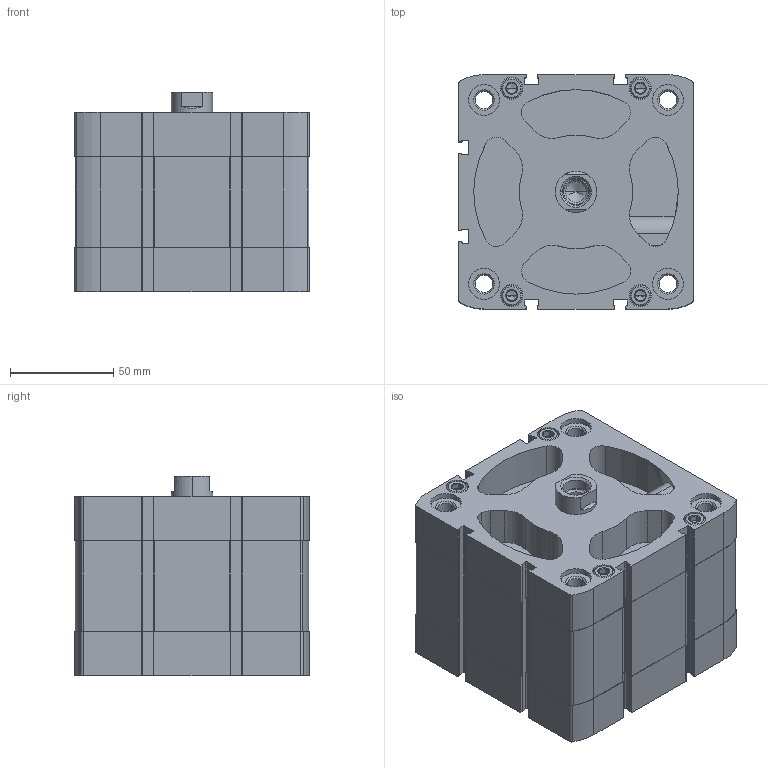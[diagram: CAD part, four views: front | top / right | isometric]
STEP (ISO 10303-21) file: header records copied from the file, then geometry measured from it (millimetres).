
FILE_DESCRIPTION (( 'STEP AP203' ), '1' );
FILE_NAME ('CCN100-20F.STEP', '2020-06-05T18:12:50', ( '' ), ( '' ), 'SwSTEP 2.0', 'SolidWorks 2019', '' );
FILE_SCHEMA (( 'CONFIG_CONTROL_DESIGN' ));
Length unit declared in the file: millimetre
Products named in the file (1): CCN100-20F
Bounding box: 113.5 x 113.5 x 96.8 mm (x, y, z)
Volume: 776148.6 mm3; surface area: 161343.3 mm2
Topology: 2 solids, 2 shells, 628 faces, 1631 edges, 1043 vertices
Faces by surface type: plane 284, cylinder 270, cone 74
Entity records: 20342 total; most frequent: CARTESIAN_POINT 4507, DIRECTION 3451, ORIENTED_EDGE 3226, EDGE_CURVE 1613, AXIS2_PLACEMENT_3D 1281, VERTEX_POINT 1043, VECTOR 889, LINE 889
